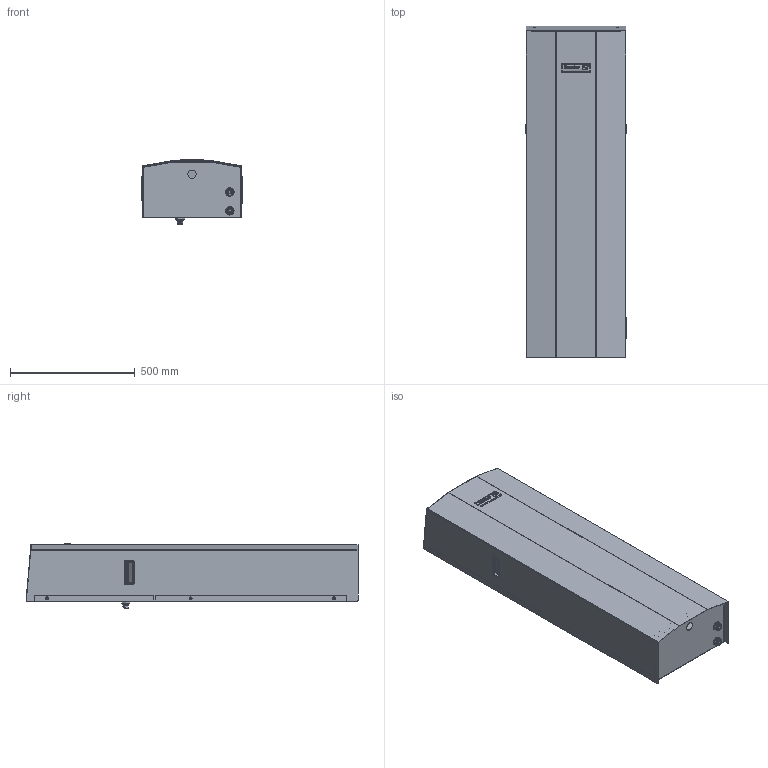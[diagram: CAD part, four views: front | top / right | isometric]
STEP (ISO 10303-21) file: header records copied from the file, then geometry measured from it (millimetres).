
FILE_DESCRIPTION (( 'STEP AP203' ), '1' );
FILE_NAME ('PWS 3302.STEP', '2017-11-21T20:18:55', ( '' ), ( '' ), 'SwSTEP 2.0', 'SolidWorks 2015', '' );
FILE_SCHEMA (( 'CONFIG_CONTROL_DESIGN' ));
Length unit declared in the file: millimetre
Products named in the file (11): PWS 3302; 850380034; 825500030_825500030; 80030-047_802002101; US-Low profile Flush Pull handle_820700000; 885000105_885000105; 015080031; 085110180; 80030-024_3302 Knocked out; 80000-008_885000136; 020140030_020140030
Assembly tree (26 placements, depth 2):
  PWS 3302
    80030-024_3302 Knocked out
    020140030_020140030  x15
    850380034  x2
    825500030_825500030
    80030-047_802002101
    US-Low profile Flush Pull handle_820700000  x2
    885000105_885000105
    015080031
    085110180
    80000-008_885000136
Bounding box: 404.29 x 1330 x 259.84 mm (x, y, z)
Volume: 2472044 mm3; surface area: 3961664.1 mm2
Topology: 77 solids, 78 shells, 4505 faces, 11717 edges, 7626 vertices
Faces by surface type: plane 2311, bspline 962, cylinder 927, cone 211, torus 86, sphere 8
Entity records: 204195 total; most frequent: CARTESIAN_POINT 121096, ORIENTED_EDGE 18540, DIRECTION 13519, EDGE_CURVE 9270, VERTEX_POINT 6070, LINE 5939, VECTOR 5939, EDGE_LOOP 4026
